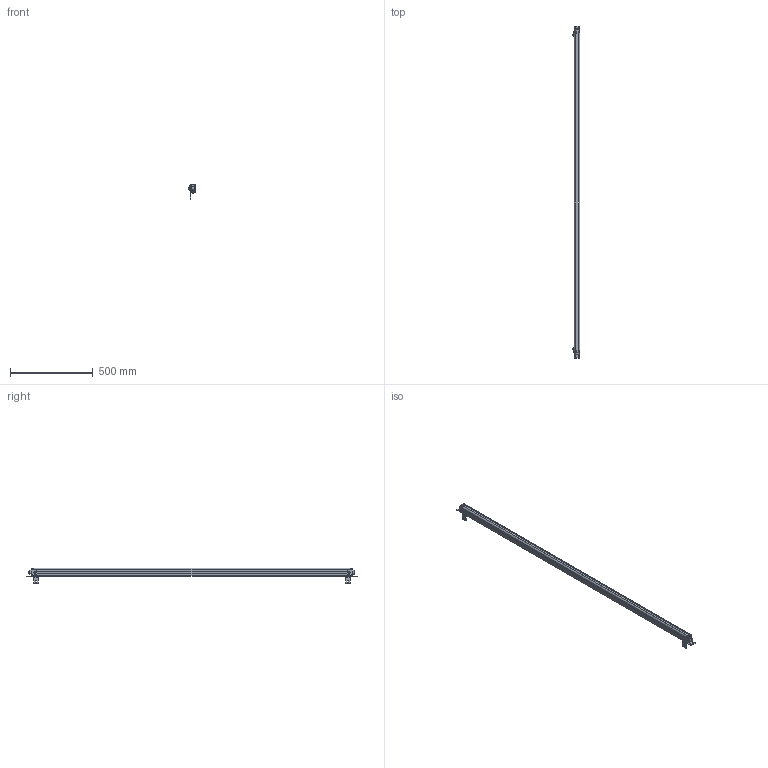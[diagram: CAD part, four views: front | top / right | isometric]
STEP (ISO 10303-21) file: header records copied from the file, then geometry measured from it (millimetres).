
FILE_DESCRIPTION((''),'2;1');
FILE_NAME('ESN--000_ASM','2021-08-11T16:40:09',('18720616900'),(''),'CREO PARAMETRIC BY PTC INC, 2019010','CREO PARAMETRIC BY PTC INC, 2019010','');
FILE_SCHEMA(('CONFIG_CONTROL_DESIGN'));
Products named in the file (22): 00; 000; _0002; _0003; _0004; 5000; 5--0001; ESN_50001_ASM; ST-3-120001; L10001; M6-8--0001; M6-1--00; M6-1-00; M6-80001_ASM; L1--0001_ASM; H1--000; H1--0003_ASM; H1--0001_ASM; ESN--000_ASM
Assembly tree (35 placements, depth 4):
  ESN--000_ASM
    00
    000
    _0002
    _0003
    _0004
    000
    ESN_50001_ASM
      5000
      5--0001  x5
    ST-3-120001  x8
    L1--0001_ASM  x2
      L10001
      M6-80001_ASM
        M6-8--0001
        M6-1--00
        M6-1-00
        00
    H1--0003_ASM
      H1--000
      M6-80001_ASM
        M6-8--0001
        M6-1--00
        M6-1-00
        00
    H1--0001_ASM
      H1--000
      M6-80001_ASM
        M6-8--0001
        M6-1--00
        M6-1-00
        00
Bounding box: 46.5 x 2007 x 94.95 mm (x, y, z)
Volume: 2903808 mm3; surface area: 580018.5 mm2
Topology: 40 solids, 40 shells, 1785 faces, 4708 edges, 3012 vertices
Faces by surface type: plane 583, cylinder 416, bspline 362, cone 291, torus 107, sphere 26
Entity records: 48222 total; most frequent: CARTESIAN_POINT 24957, ORIENTED_EDGE 5136, DIRECTION 4189, EDGE_CURVE 2568, VERTEX_POINT 1669, AXIS2_PLACEMENT_3D 1488, VECTOR 1213, LINE 1213
